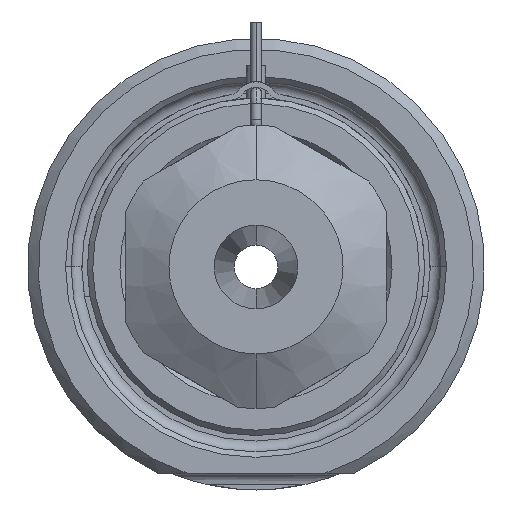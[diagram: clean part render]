
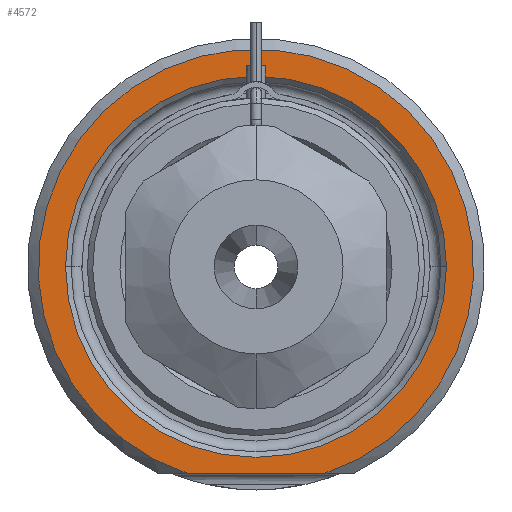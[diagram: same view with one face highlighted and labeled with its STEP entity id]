
A CAD part, front view. The second image highlights one B-rep face of the part: STEP entity #4572.
In plain terms, the highlighted planar face has unit normal (0, -1, 0).
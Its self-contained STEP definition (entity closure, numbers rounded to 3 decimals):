
#1610=CARTESIAN_POINT('',(0.,0.,0.));
#1611=DIRECTION('',(0.,-1.,0.));
#1612=DIRECTION('',(0.312,0.,-0.95));
#1613=AXIS2_PLACEMENT_3D('',#1610,#1611,#1612);
#1634=DIRECTION('',(1.,0.,0.));
#1635=VECTOR('',#1634,12.49);
#1636=CARTESIAN_POINT('',(-6.245,0.,-19.));
#1637=LINE('',#1636,#1635);
#1638=CARTESIAN_POINT('',(0.,0.,0.));
#1639=DIRECTION('',(0.,1.,0.));
#1640=DIRECTION('',(-1.,0.,0.));
#1641=AXIS2_PLACEMENT_3D('',#1638,#1639,#1640);
#1643=CARTESIAN_POINT('',(0.,0.,0.));
#1644=DIRECTION('',(0.,1.,0.));
#1645=DIRECTION('',(1.,0.,0.));
#1646=AXIS2_PLACEMENT_3D('',#1643,#1644,#1645);
#2481=CARTESIAN_POINT('',(-17.5,0.,0.));
#2482=CARTESIAN_POINT('',(17.5,0.,0.));
#2483=VERTEX_POINT('',#2481);
#2484=VERTEX_POINT('',#2482);
#2539=CARTESIAN_POINT('',(-6.245,0.,-19.));
#2540=CARTESIAN_POINT('',(6.245,0.,-19.));
#2541=VERTEX_POINT('',#2539);
#2542=VERTEX_POINT('',#2540);
#4557=CARTESIAN_POINT('',(0.,0.,0.));
#4558=DIRECTION('',(0.,-1.,0.));
#4559=DIRECTION('',(1.,0.,0.));
#4560=AXIS2_PLACEMENT_3D('',#4557,#4558,#4559);
#4561=PLANE('',#4560);
#4562=ORIENTED_EDGE('',*,*,#4489,.F.);
#4563=ORIENTED_EDGE('',*,*,#4549,.F.);
#4564=EDGE_LOOP('',(#4562,#4563));
#4565=FACE_OUTER_BOUND('',#4564,.F.);
#4567=ORIENTED_EDGE('',*,*,#4566,.F.);
#4569=ORIENTED_EDGE('',*,*,#4568,.F.);
#4570=EDGE_LOOP('',(#4567,#4569));
#4571=FACE_BOUND('',#4570,.F.);
#4572=ADVANCED_FACE('',(#4565,#4571),#4561,.T.);
#1614=CIRCLE('',#1613,20.);
#1642=CIRCLE('',#1641,17.5);
#1647=CIRCLE('',#1646,17.5);
#4489=EDGE_CURVE('',#2541,#2542,#1637,.T.);
#4549=EDGE_CURVE('',#2542,#2541,#1614,.T.);
#4566=EDGE_CURVE('',#2483,#2484,#1642,.T.);
#4568=EDGE_CURVE('',#2484,#2483,#1647,.T.);
